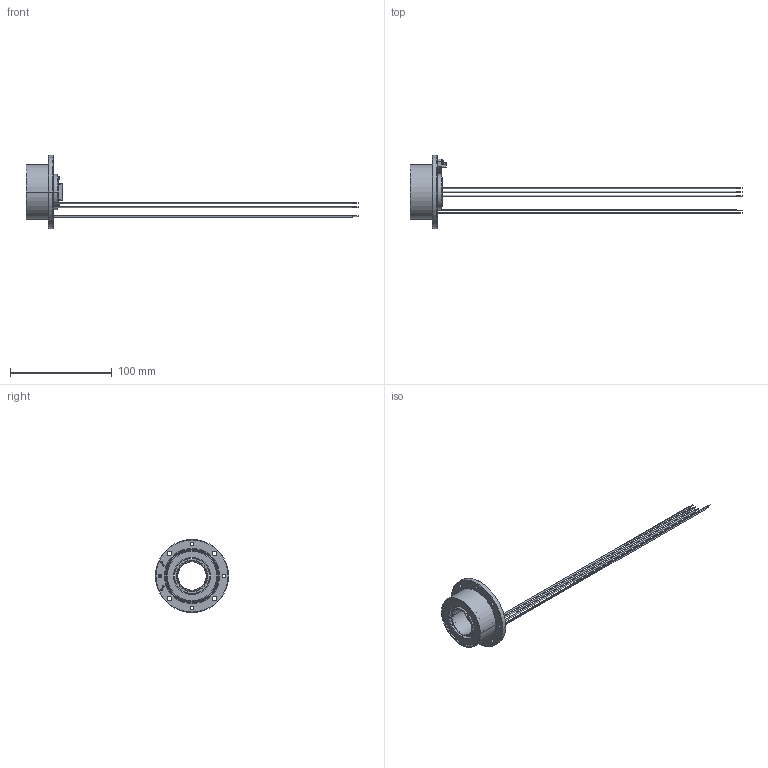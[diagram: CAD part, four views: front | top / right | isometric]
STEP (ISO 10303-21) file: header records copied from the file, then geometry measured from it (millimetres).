
FILE_DESCRIPTION((''),'2;1');
FILE_NAME('8369329_ASM','2022-02-11T07:12:10',('MMAGMUAG'),(''),'CREO PARAMETRIC BY PTC INC, 2020342','CREO PARAMETRIC BY PTC INC, 2020342','');
FILE_SCHEMA(('CONFIG_CONTROL_DESIGN','SHAPE_APPEARANCE_LAYERS_GROUPS'));
Products named in the file (15): 7835205; 8282388; 8283336; 8284216; 8285396_ASM; 8284624_ASM; 8369494; 6428468; 6421355; 6732790; 6737674; 6421360_ASM; 6500601; ISO_14583_M020_080; 8369329_ASM
Assembly tree (18 placements, depth 4):
  8369329_ASM
    8284624_ASM
      8285396_ASM
        7835205
        8282388
        8283336  x3
        8284216  x2
    8369494
    6428468
    6421360_ASM
      6421355
      6732790
      6737674
    6500601
    ISO_14583_M020_080  x2
Bounding box: 327 x 72 x 72 mm (x, y, z)
Volume: 52438.6 mm3; surface area: 42220.4 mm2
Topology: 53 solids, 59 shells, 3200 faces, 9113 edges, 6047 vertices
Faces by surface type: plane 1994, cylinder 847, sphere 229, cone 71, torus 30, bspline 29
Entity records: 161654 total; most frequent: CARTESIAN_POINT 38956, ORIENTED_EDGE 17588, DIRECTION 15330, PRESENTATION_STYLE_ASSIGNMENT 11010, STYLED_ITEM 8887, CURVE_STYLE 8794, EDGE_CURVE 8794, VERTEX_POINT 5985
